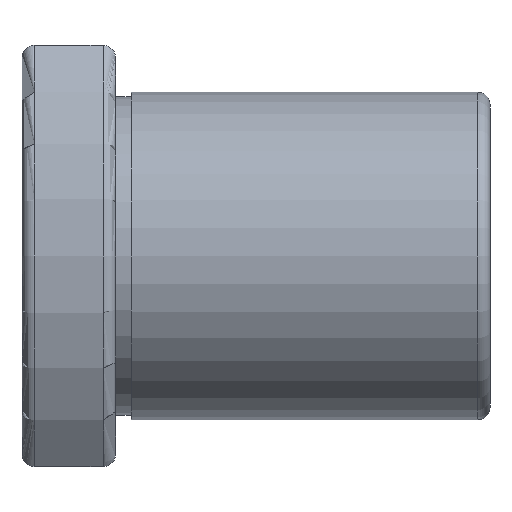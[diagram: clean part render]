
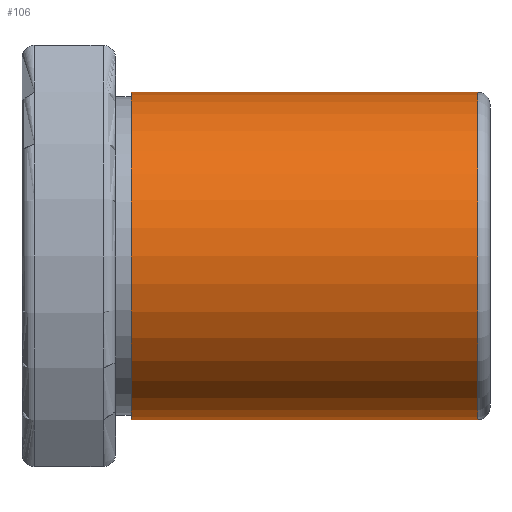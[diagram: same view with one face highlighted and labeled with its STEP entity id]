
A CAD part, front view. The second image highlights one B-rep face of the part: STEP entity #106.
In plain terms, the highlighted cylindrical face has radius 10.5 mm (diameter 21 mm), a full revolution.
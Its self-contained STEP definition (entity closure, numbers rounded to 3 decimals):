
#106 = ADVANCED_FACE( '', ( #228, #229 ), #230, .T. );
#228 = FACE_OUTER_BOUND( '', #347, .T. );
#229 = FACE_OUTER_BOUND( '', #348, .T. );
#230 = CYLINDRICAL_SURFACE( '', #349, 10.5 );
#347 = EDGE_LOOP( '', ( #551 ) );
#348 = EDGE_LOOP( '', ( #552 ) );
#349 = AXIS2_PLACEMENT_3D( '', #553, #554, #555 );
#551 = ORIENTED_EDGE( '', *, *, #629, .F. );
#552 = ORIENTED_EDGE( '', *, *, #636, .T. );
#553 = CARTESIAN_POINT( '', ( 17.9, 0., 0. ) );
#554 = DIRECTION( '', ( -1., 0., 0. ) );
#555 = DIRECTION( '', ( 0., 1., 0. ) );
#629 = EDGE_CURVE( '', #736, #736, #737, .F. );
#636 = EDGE_CURVE( '', #745, #745, #746, .F. );
#736 = VERTEX_POINT( '', #907 );
#737 = CIRCLE( '', #908, 10.5 );
#745 = VERTEX_POINT( '', #917 );
#746 = CIRCLE( '', #918, 10.5 );
#907 = CARTESIAN_POINT( '', ( 7., 0., -10.5 ) );
#908 = AXIS2_PLACEMENT_3D( '', #1012, #1013, #1014 );
#917 = CARTESIAN_POINT( '', ( 29.2, 10.5, 0. ) );
#918 = AXIS2_PLACEMENT_3D( '', #1022, #1023, #1024 );
#1012 = CARTESIAN_POINT( '', ( 7., 0., 0. ) );
#1013 = DIRECTION( '', ( 1., 0., 0. ) );
#1014 = DIRECTION( '', ( 0., 0., -1. ) );
#1022 = CARTESIAN_POINT( '', ( 29.2, 0., 0. ) );
#1023 = DIRECTION( '', ( 1., 0., 0. ) );
#1024 = DIRECTION( '', ( 0., 0., -1. ) );
